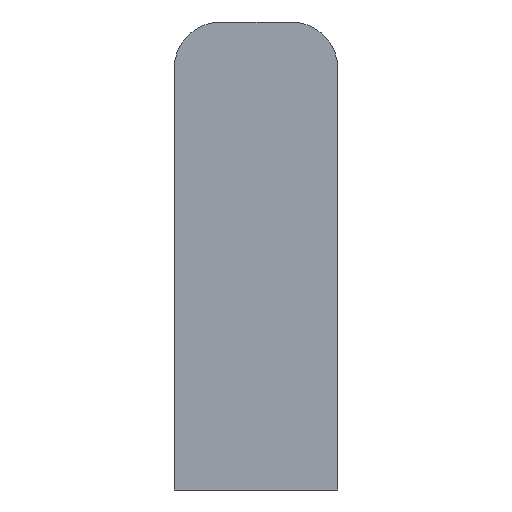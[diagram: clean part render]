
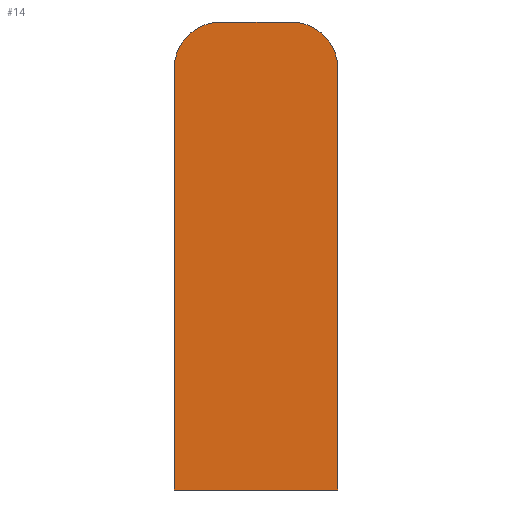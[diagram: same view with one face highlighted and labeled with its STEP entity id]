
A CAD part, front view. The second image highlights one B-rep face of the part: STEP entity #14.
In plain terms, the highlighted planar face has unit normal (0, -1, 0).
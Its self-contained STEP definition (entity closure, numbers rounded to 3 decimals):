
#14 = ADVANCED_FACE ( 'NONE', ( #249 ), #49, .F. ) ;
#27 = DIRECTION ( 'NONE',  ( 0., -1., 0. ) ) ;
#49 = PLANE ( 'NONE',  #375 ) ;
#53 = CARTESIAN_POINT ( 'NONE',  ( 0., 0., -1.5 ) ) ;
#59 = DIRECTION ( 'NONE',  ( 0., 1., 0. ) ) ;
#60 = DIRECTION ( 'NONE',  ( -1., 0., 0. ) ) ;
#81 = DIRECTION ( 'NONE',  ( 0., 0., 1. ) ) ;
#99 = CARTESIAN_POINT ( 'NONE',  ( 5.25, 0., -16.5 ) ) ;
#101 = DIRECTION ( 'NONE',  ( -1., 0., 0. ) ) ;
#105 = CARTESIAN_POINT ( 'NONE',  ( 5.25, 0., -16.5 ) ) ;
#109 = DIRECTION ( 'NONE',  ( 0., -1., 0. ) ) ;
#110 = DIRECTION ( 'NONE',  ( -1., 0., 0. ) ) ;
#114 = CARTESIAN_POINT ( 'NONE',  ( 2.25, 0., 10.5 ) ) ;
#115 = DIRECTION ( 'NONE',  ( 1., 0., 0. ) ) ;
#118 = CARTESIAN_POINT ( 'NONE',  ( -2.25, 0., 10.5 ) ) ;
#141 = CARTESIAN_POINT ( 'NONE',  ( 2.25, 0., 13.5 ) ) ;
#142 = DIRECTION ( 'NONE',  ( -1., 0., 0. ) ) ;
#163 = LINE ( 'NONE', #329, #166 ) ;
#166 = VECTOR ( 'NONE', #361, 1000. ) ;
#218 = EDGE_LOOP ( 'NONE', ( #229, #233, #234, #235, #224, #225 ) ) ;
#224 = ORIENTED_EDGE ( 'NONE', *, *, #439, .T. ) ;
#225 = ORIENTED_EDGE ( 'NONE', *, *, #393, .T. ) ;
#229 = ORIENTED_EDGE ( 'NONE', *, *, #378, .T. ) ;
#233 = ORIENTED_EDGE ( 'NONE', *, *, #398, .T. ) ;
#234 = ORIENTED_EDGE ( 'NONE', *, *, #425, .T. ) ;
#235 = ORIENTED_EDGE ( 'NONE', *, *, #399, .T. ) ;
#243 = VECTOR ( 'NONE', #81, 1000. ) ;
#245 = LINE ( 'NONE', #99, #273 ) ;
#249 = FACE_OUTER_BOUND ( 'NONE', #218, .T. ) ;
#273 = VECTOR ( 'NONE', #115, 1000. ) ;
#279 = CIRCLE ( 'NONE', #387, 3. ) ;
#281 = CIRCLE ( 'NONE', #411, 3. ) ;
#313 = LINE ( 'NONE', #105, #243 ) ;
#316 = LINE ( 'NONE', #141, #317 ) ;
#317 = VECTOR ( 'NONE', #142, 1000. ) ;
#329 = CARTESIAN_POINT ( 'NONE',  ( -5.25, 0., -16.5 ) ) ;
#340 = CARTESIAN_POINT ( 'NONE',  ( 2.25, 0., 13.5 ) ) ;
#349 = CARTESIAN_POINT ( 'NONE',  ( -5.25, 0., 10.5 ) ) ;
#354 = CARTESIAN_POINT ( 'NONE',  ( 5.25, 0., 10.5 ) ) ;
#355 = CARTESIAN_POINT ( 'NONE',  ( 5.25, 0., -16.5 ) ) ;
#361 = DIRECTION ( 'NONE',  ( 0., 0., -1. ) ) ;
#362 = CARTESIAN_POINT ( 'NONE',  ( -5.25, 0., -16.5 ) ) ;
#368 = CARTESIAN_POINT ( 'NONE',  ( -2.25, 0., 13.5 ) ) ;
#375 = AXIS2_PLACEMENT_3D ( 'NONE', #53, #59, #60 ) ;
#378 = EDGE_CURVE ( 'NONE', #454, #453, #313, .T. ) ;
#387 = AXIS2_PLACEMENT_3D ( 'NONE', #114, #109, #110 ) ;
#393 = EDGE_CURVE ( 'NONE', #455, #454, #245, .T. ) ;
#398 = EDGE_CURVE ( 'NONE', #453, #444, #279, .T. ) ;
#399 = EDGE_CURVE ( 'NONE', #461, #457, #281, .T. ) ;
#411 = AXIS2_PLACEMENT_3D ( 'NONE', #118, #27, #101 ) ;
#425 = EDGE_CURVE ( 'NONE', #444, #461, #316, .T. ) ;
#439 = EDGE_CURVE ( 'NONE', #457, #455, #163, .T. ) ;
#444 = VERTEX_POINT ( 'NONE', #340 ) ;
#453 = VERTEX_POINT ( 'NONE', #354 ) ;
#454 = VERTEX_POINT ( 'NONE', #355 ) ;
#455 = VERTEX_POINT ( 'NONE', #362 ) ;
#457 = VERTEX_POINT ( 'NONE', #349 ) ;
#461 = VERTEX_POINT ( 'NONE', #368 ) ;
